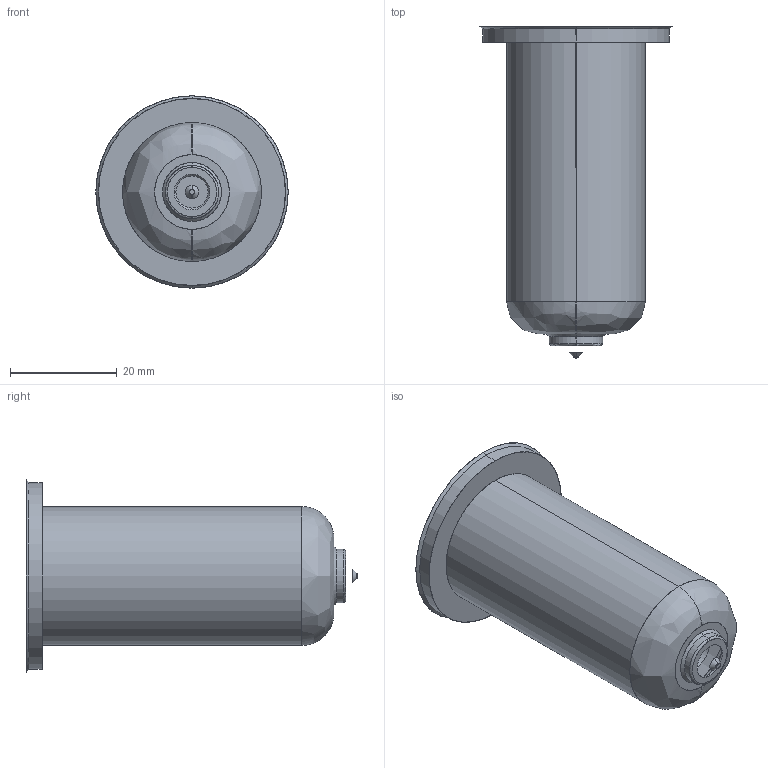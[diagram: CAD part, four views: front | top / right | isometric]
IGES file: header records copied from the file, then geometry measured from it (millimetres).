
Start section: SolidWorks IGES file using analytic representation for surfaces
Global section: file name: C:\Users\luca.EMPAD\Desktop\TEM\Sede UGEP3051-M-A C-59 L-77 Ød-1.0.IGS; native system: SolidWorks 2012; preprocessor: SolidWorks 2012; author: luca; date: 120402.151743; units: millimetre
Bounding box: 36 x 62.15 x 36 mm (x, y, z)
Surface area: 6656.8 mm2 (no closed solid volume)
Topology: 0 solids, 0 shells, 25 faces, 388 edges, 388 vertices
Faces by surface type: revolution 16, bspline 9
